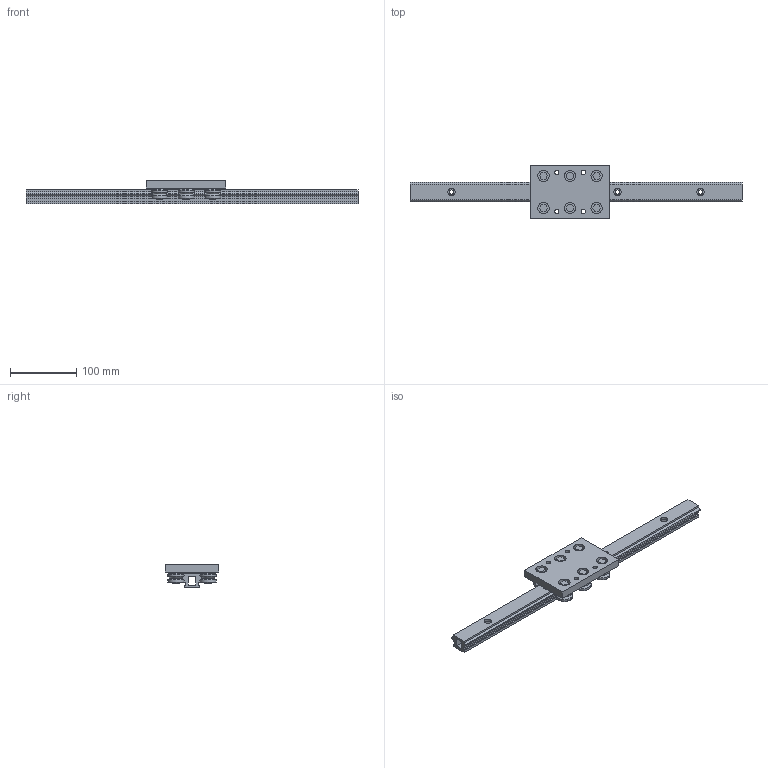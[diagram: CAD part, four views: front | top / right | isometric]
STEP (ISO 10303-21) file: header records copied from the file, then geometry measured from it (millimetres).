
FILE_DESCRIPTION((''),'2;1');
FILE_NAME('D:\製品 (図面)\カタログ用3D\リニアガイド関連\STEP形式\SPDR\SPDR30L.stp','2010-06-02T17:10:07',('Tsuchiya'),(''),'Autodesk Inventor 10','Autodesk Inventor 10','');
FILE_SCHEMA(('AUTOMOTIVE_DESIGN { 1 0 10303 214 1 1 1 1 }'));
Length unit declared in the file: millimetre
Products named in the file (3): SPDR30L; SPDR30L1; SPDR30L2
Assembly tree (2 placements, depth 2):
  SPDR30L
    SPDR30L1
    SPDR30L2
Bounding box: 500 x 80 x 35.5 mm (x, y, z)
Volume: 312830.1 mm3; surface area: 113440.9 mm2
Topology: 2 solids, 2 shells, 174 faces, 389 edges, 248 vertices
Faces by surface type: plane 94, bspline 28, cylinder 28, cone 24
Full cylindrical faces by diameter (mm): 6.647 x2, 10 x6, 12 x6, 24 x12
Entity records: 4755 total; most frequent: CARTESIAN_POINT 1081, DIRECTION 730, ORIENTED_EDGE 624, EDGE_CURVE 312, EDGE_LOOP 298, AXIS2_PLACEMENT_3D 267, VERTEX_POINT 240, VECTOR 196
